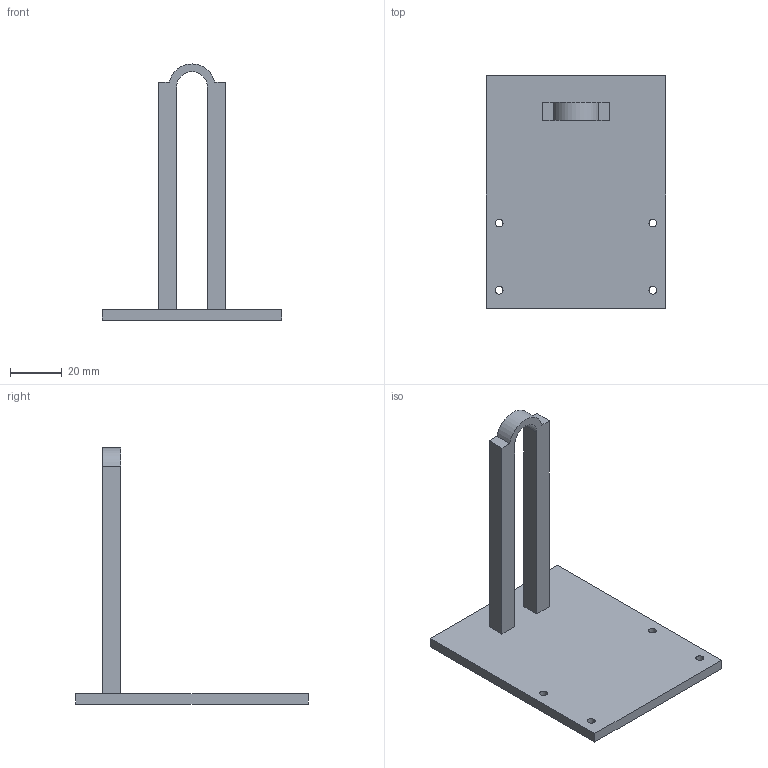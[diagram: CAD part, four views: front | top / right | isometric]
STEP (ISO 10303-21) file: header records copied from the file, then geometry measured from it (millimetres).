
FILE_DESCRIPTION(('STEP AP242'), '1');
FILE_NAME('扻豵鵨', '', ('UNSPECIFIED'), ('UNSPECIFIED'), 'C3D Converter', 'C3D Toolkit', '');
FILE_SCHEMA(('AP242_MANAGED_MODEL_BASED_3D_ENGINEERING_MIM_LF { 1 0 10303 442 1 1 4 }'));
Length unit declared in the file: millimetre
Bounding box: 69.4 x 90 x 99 mm (x, y, z)
Volume: 33906.7 mm3; surface area: 19141.8 mm2
Topology: 1 solids, 1 shells, 20 faces, 54 edges, 36 vertices
Faces by surface type: plane 14, cylinder 6
Full cylindrical faces by diameter (mm): 3 x4
Entity records: 670 total; most frequent: CARTESIAN_POINT 107, DIRECTION 104, ORIENTED_EDGE 100, EDGE_CURVE 50, LINE 38, VECTOR 38, VERTEX_POINT 36, EDGE_LOOP 34
